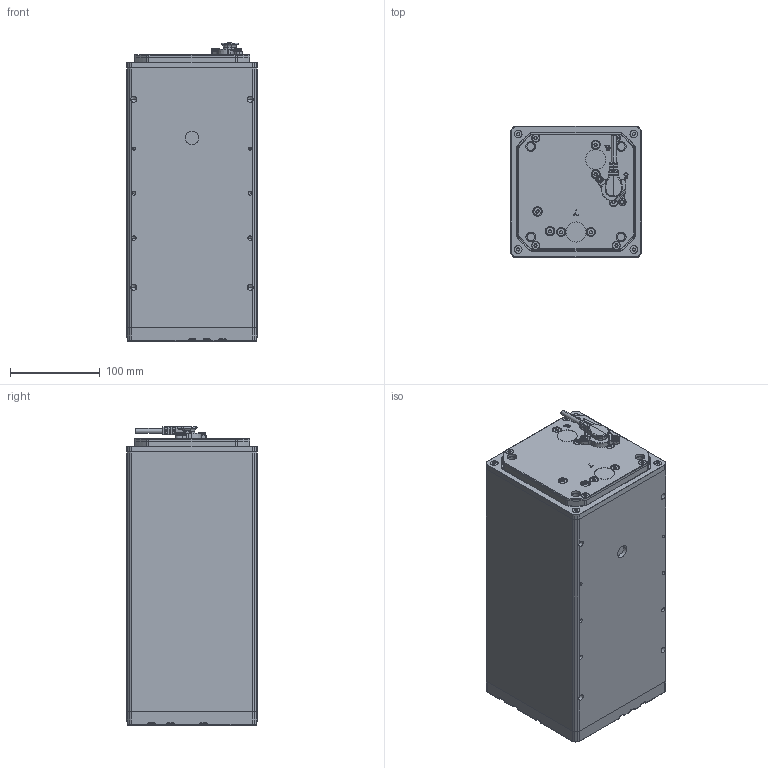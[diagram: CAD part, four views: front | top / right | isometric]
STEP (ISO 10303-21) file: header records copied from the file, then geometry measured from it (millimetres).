
FILE_DESCRIPTION((''),'2;1');
FILE_NAME('1002W9008_ASM','2020-05-14T16:01:34',('ulj'),(''),'CREO PARAMETRIC BY PTC INC, 2019344','CREO PARAMETRIC BY PTC INC, 2019344','');
FILE_SCHEMA(('AUTOMOTIVE_DESIGN { 1 0 10303 214 1 1 1 1 }'));
Products named in the file (8): 1002W4043; 1002W4044; 1002W4045; 1002W4046; 1002W4010; 1002W4016; 0002601; 1002W9008_ASM
Assembly tree (18 placements, depth 2):
  1002W9008_ASM
    1002W4043
    1002W4044
    1002W4045
    1002W4046
    1002W4010
    1002W4016
    0002601  x12
Bounding box: 146 x 146 x 333 mm (x, y, z)
Surface area: 518636.2 mm2
Topology: 18 solids, 24 shells, 2100 faces, 5300 edges, 3282 vertices
Faces by surface type: cylinder 833, plane 588, cone 320, torus 214, bspline 116, sphere 26, revolution 3
Entity records: 64201 total; most frequent: CARTESIAN_POINT 17788, DIRECTION 9837, ORIENTED_EDGE 9238, EDGE_CURVE 4619, AXIS2_PLACEMENT_3D 3817, VERTEX_POINT 2908, VECTOR 2200, LINE 2200
